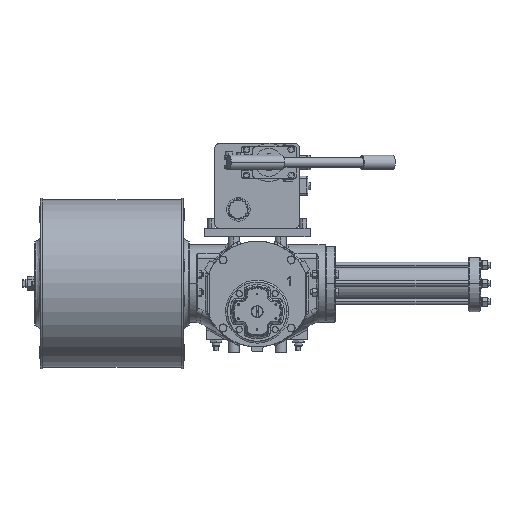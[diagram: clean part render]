
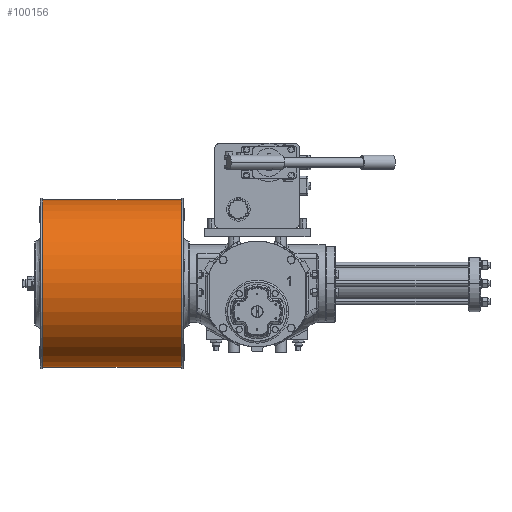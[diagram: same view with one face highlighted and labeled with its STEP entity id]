
A CAD part, top view. The second image highlights one B-rep face of the part: STEP entity #100156.
In plain terms, the highlighted cylindrical face has radius 177.8 mm (diameter 355.6 mm), a partial arc.
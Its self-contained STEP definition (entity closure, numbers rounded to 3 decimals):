
#4842 = VECTOR ( 'NONE', #35477, 1000. ) ;
#9370 = ORIENTED_EDGE ( 'NONE', *, *, #73489, .T. ) ;
#10491 = LINE ( 'NONE', #31927, #22946 ) ;
#13401 = DIRECTION ( 'NONE',  ( 0., 1., 0. ) ) ;
#19471 = VERTEX_POINT ( 'NONE', #87356 ) ;
#22946 = VECTOR ( 'NONE', #55826, 1000. ) ;
#23418 = DIRECTION ( 'NONE',  ( 1., 0., 0. ) ) ;
#27489 = ORIENTED_EDGE ( 'NONE', *, *, #53343, .T. ) ;
#28285 = DIRECTION ( 'NONE',  ( 0., 1., 0. ) ) ;
#30752 = CYLINDRICAL_SURFACE ( 'NONE', #74722, 177.8 ) ;
#31927 = CARTESIAN_POINT ( 'NONE',  ( -456.5, -155.3, 57.5 ) ) ;
#32744 = CARTESIAN_POINT ( 'NONE',  ( -456.5, 200.3, 57.5 ) ) ;
#35477 = DIRECTION ( 'NONE',  ( 1., 0., 0. ) ) ;
#42754 = VERTEX_POINT ( 'NONE', #32744 ) ;
#43287 = CARTESIAN_POINT ( 'NONE',  ( -456.5, 200.3, 57.5 ) ) ;
#45699 = CARTESIAN_POINT ( 'NONE',  ( -161.5, 22.5, 57.5 ) ) ;
#52957 = DIRECTION ( 'NONE',  ( -1., 0., 0. ) ) ;
#53343 = EDGE_CURVE ( 'NONE', #102361, #57698, #10491, .T. ) ;
#53899 = AXIS2_PLACEMENT_3D ( 'NONE', #45699, #52957, #13401 ) ;
#55232 = EDGE_CURVE ( 'NONE', #42754, #19471, #61457, .T. ) ;
#55826 = DIRECTION ( 'NONE',  ( 1., 0., 0. ) ) ;
#57698 = VERTEX_POINT ( 'NONE', #76332 ) ;
#61447 = DIRECTION ( 'NONE',  ( 0., 1., 0. ) ) ;
#61457 = LINE ( 'NONE', #43287, #4842 ) ;
#62480 = CARTESIAN_POINT ( 'NONE',  ( -456.5, 22.5, 57.5 ) ) ;
#63304 = ORIENTED_EDGE ( 'NONE', *, *, #55232, .F. ) ;
#67832 = DIRECTION ( 'NONE',  ( 1., 0., 0. ) ) ;
#71711 = EDGE_CURVE ( 'NONE', #57698, #19471, #72234, .T. ) ;
#72234 = CIRCLE ( 'NONE', #53899, 177.8 ) ;
#73489 = EDGE_CURVE ( 'NONE', #42754, #102361, #80699, .T. ) ;
#74278 = CARTESIAN_POINT ( 'NONE',  ( -456.5, -155.3, 57.5 ) ) ;
#74722 = AXIS2_PLACEMENT_3D ( 'NONE', #62480, #23418, #61447 ) ;
#76332 = CARTESIAN_POINT ( 'NONE',  ( -161.5, -155.3, 57.5 ) ) ;
#80699 = CIRCLE ( 'NONE', #94015, 177.8 ) ;
#85666 = ORIENTED_EDGE ( 'NONE', *, *, #71711, .T. ) ;
#87356 = CARTESIAN_POINT ( 'NONE',  ( -161.5, 200.3, 57.5 ) ) ;
#94015 = AXIS2_PLACEMENT_3D ( 'NONE', #99580, #67832, #28285 ) ;
#97700 = EDGE_LOOP ( 'NONE', ( #9370, #27489, #85666, #63304 ) ) ;
#99580 = CARTESIAN_POINT ( 'NONE',  ( -456.5, 22.5, 57.5 ) ) ;
#100156 = ADVANCED_FACE ( 'NONE', ( #102036 ), #30752, .T. ) ;
#102036 = FACE_OUTER_BOUND ( 'NONE', #97700, .T. ) ;
#102361 = VERTEX_POINT ( 'NONE', #74278 ) ;
